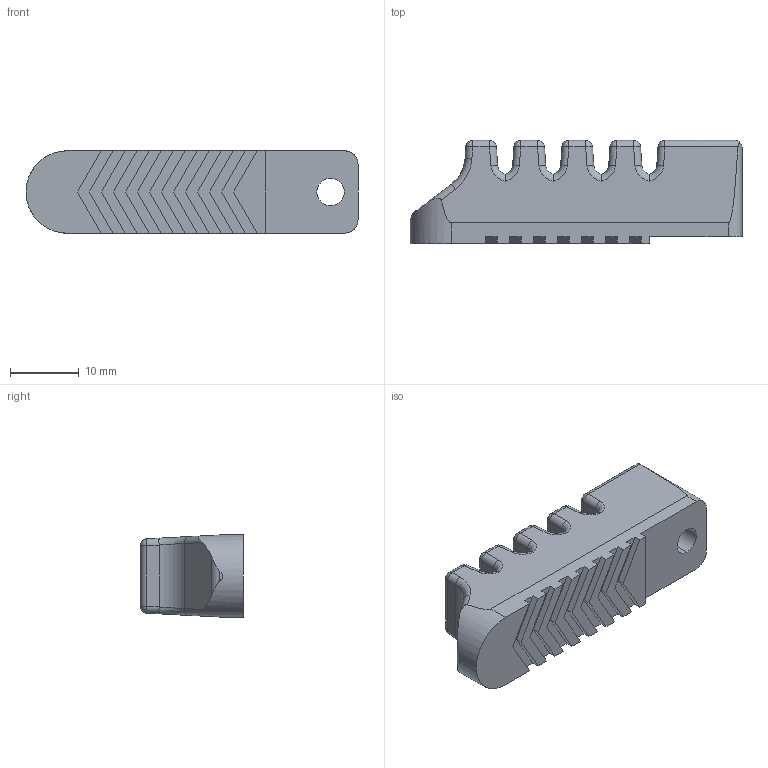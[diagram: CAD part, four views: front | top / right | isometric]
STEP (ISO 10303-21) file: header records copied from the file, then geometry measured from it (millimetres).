
FILE_DESCRIPTION (( 'STEP AP214' ), '1' );
FILE_NAME ('C5.STEP', '2019-12-04T07:23:05', ( '微软用户' ), ( '微软中国' ), 'SwSTEP 2.0', 'SolidWorks 2016', '' );
FILE_SCHEMA (( 'AUTOMOTIVE_DESIGN' ));
Length unit declared in the file: millimetre
Products named in the file (1): C5
Bounding box: 48.35 x 15 x 12 mm (x, y, z)
Volume: 6539.1 mm3; surface area: 3120.4 mm2
Topology: 1 solids, 1 shells, 157 faces, 383 edges, 228 vertices
Faces by surface type: plane 66, cylinder 55, sphere 18, bspline 18
Entity records: 7473 total; most frequent: CARTESIAN_POINT 2218, ORIENTED_EDGE 766, DIRECTION 683, EDGE_CURVE 383, LINE 241, VECTOR 241, VERTEX_POINT 228, AXIS2_PLACEMENT_3D 221
